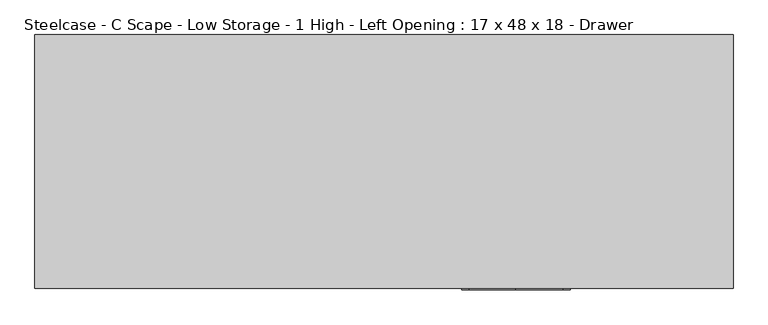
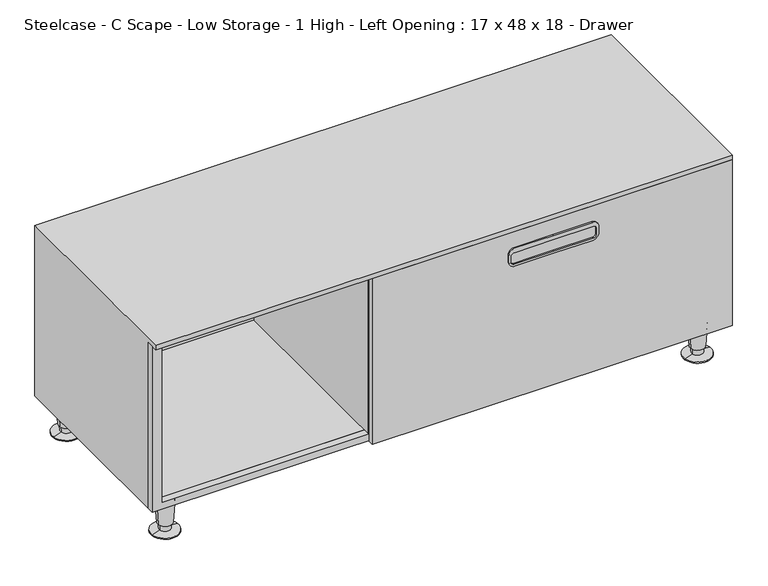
"""IFC4 building model written with IfcOpenShell, lengths in millimetres: furniture geometry, Steelcase - C Scape - Low Storage - 1 High - Left Opening : 17 x 48 x 18 - Drawer."""

import ifcopenshell
import ifcopenshell.guid

model = None  # the IFC model being written
_history = None  # IfcOwnerHistory: only IFC2X3 demands one
_inside = {}  # id of a spatial element -> (the spatial element, [elements in it])
_under = {}  # id of a project, library or spatial element -> (it, [spatial elements below it])
_declared = {}  # id of a project -> (the project, [libraries it declares])
_typed = {}  # id of a type object -> (the type object, [elements of that type])
_made_of = {}  # id of a material, layer set ... -> (it, [elements and type objects made of it])


def new_model(schema):
    """Start an empty IFC model of exactly this schema.

    Asked for "IFC4X3", IfcOpenShell would pick the latest addendum, in which some entities
    have other attributes; the version numbers below select the first issue.
    IFC2X3 requires an IfcOwnerHistory on every rooted entity: one is made here for all.
    """
    global model, _history
    if schema == "IFC4X3":
        model = ifcopenshell.file(schema_version=(4, 3, 0, 0))
    else:
        model = ifcopenshell.file(schema=schema)
    _inside.clear()
    _under.clear()
    _declared.clear()
    _typed.clear()
    _made_of.clear()
    _history = None
    if model.schema == "IFC2X3":
        org = make("IfcOrganization", Name="unknown")
        user = make(
            "IfcPersonAndOrganization",
            ThePerson=make("IfcPerson", FamilyName="unknown"),
            TheOrganization=org,
        )
        app = make(
            "IfcApplication",
            ApplicationDeveloper=org,
            Version="unknown",
            ApplicationFullName="unknown",
            ApplicationIdentifier="unknown",
        )
        _history = make(
            "IfcOwnerHistory",
            OwningUser=user,
            OwningApplication=app,
            ChangeAction="ADDED",
            CreationDate=0,
        )
    return model


def make(cls, **values):
    """One entity of the class cls with the attributes given. An attribute that is None is left unset."""
    return model.create_entity(
        cls, **{name: value for name, value in values.items() if value is not None}
    )


def rooted(cls, **values):
    """An entity with a GlobalId (a new one), such as an element, a storey or a relation."""
    return make(cls, GlobalId=ifcopenshell.guid.new(), OwnerHistory=_history, **values)


def si_unit(unit_type, name, prefix=None):
    """IfcSIUnit, for example si_unit("LENGTHUNIT", "METRE", prefix="MILLI")."""
    return make("IfcSIUnit", UnitType=unit_type, Prefix=prefix, Name=name)


def assignment(units):
    """IfcUnitAssignment: the units of a project."""
    return None if units is None else make("IfcUnitAssignment", Units=units)


def point(xyz):
    """IfcCartesianPoint."""
    return None if xyz is None else make("IfcCartesianPoint", Coordinates=xyz)


def direction(xyz):
    """IfcDirection."""
    return None if xyz is None else make("IfcDirection", DirectionRatios=xyz)


def frame(location, z_axis=None, x_axis=None):
    """IfcAxis2Placement3D, a coordinate frame: its origin and axes. An axis left out is left unset."""
    return make(
        "IfcAxis2Placement3D",
        Location=point(location),
        Axis=direction(z_axis),
        RefDirection=direction(x_axis),
    )


def frame_2d(location, x_axis=None):
    """IfcAxis2Placement2D, a coordinate frame in the plane: its origin and x axis."""
    return make(
        "IfcAxis2Placement2D", Location=point(location), RefDirection=direction(x_axis)
    )


def origin():
    """The frame at (0, 0, 0) with its axes left unset."""
    return frame((0.0, 0.0, 0.0))


def place(relative_to, where):
    """IfcLocalPlacement: puts the frame where relative to a parent placement (None: the world)."""
    return make(
        "IfcLocalPlacement", PlacementRelTo=relative_to, RelativePlacement=where
    )


def context(
    kind, dimensions, precision=None, world=None, true_north=None, identifier=None
):
    """IfcGeometricRepresentationContext, for example the 3D "Model" context."""
    return make(
        "IfcGeometricRepresentationContext",
        ContextIdentifier=identifier,
        ContextType=kind,
        CoordinateSpaceDimension=dimensions,
        Precision=precision,
        WorldCoordinateSystem=world,
        TrueNorth=true_north,
    )


def project(units=None, contexts=None):
    """IfcProject with its units and contexts."""
    return rooted(
        "IfcProject",
        Name="project",
        RepresentationContexts=contexts,
        UnitsInContext=assignment(units),
    )


def spatial(cls, under=None, at=None, **own):
    """A site, building, storey or space (cls), placed at a placement, below another one or the project."""
    s = rooted(cls, ObjectPlacement=at, **own)
    if under is not None:
        _under.setdefault(under.id(), (under, []))[1].append(s)
    return s


def polyline(points):
    """IfcPolyline through the points."""
    return make("IfcPolyline", Points=[point(p) for p in points])


def circle_curve(where, radius):
    """IfcCircle in the frame where."""
    return make("IfcCircle", Position=where, Radius=radius)


def trimmed(basis, trim1, trim2, sense, master):
    """IfcTrimmedCurve: the piece of a basis curve between two trims."""
    return make(
        "IfcTrimmedCurve",
        BasisCurve=basis,
        Trim1=trim1,
        Trim2=trim2,
        SenseAgreement=sense,
        MasterRepresentation=master,
    )


def segment(curve, same_sense, transition):
    """IfcCompositeCurveSegment."""
    return make(
        "IfcCompositeCurveSegment",
        Transition=transition,
        SameSense=same_sense,
        ParentCurve=curve,
    )


def composite_curve(segments, self_intersect=None):
    """IfcCompositeCurve: segments joined end to end."""
    return make("IfcCompositeCurve", Segments=segments, SelfIntersect=self_intersect)


def outline(outer, holes=None, kind="AREA"):
    """IfcArbitraryClosedProfileDef: a profile drawn as a closed curve; with holes, ...WithVoids."""
    if holes is None:
        return make("IfcArbitraryClosedProfileDef", ProfileType=kind, OuterCurve=outer)
    return make(
        "IfcArbitraryProfileDefWithVoids",
        ProfileType=kind,
        OuterCurve=outer,
        InnerCurves=holes,
    )


def extrude(swept, where, along, depth):
    """IfcExtrudedAreaSolid: the profile swept, set in the frame where, extruded along a direction by depth."""
    return make(
        "IfcExtrudedAreaSolid",
        SweptArea=swept,
        Position=where,
        ExtrudedDirection=direction(along),
        Depth=depth,
    )


def faces_of(points, faces, orient=None, outer=None):
    """IfcFace entities. A face is a list of loops; a loop is a list of indices into points, from 0.

    orient and outer hold one flag for each loop. By default every Orientation is true, the
    first loop of a face is its IfcFaceOuterBound and the others are IfcFaceBound.
    """
    made = []
    for i, loops in enumerate(faces):
        bounds = []
        for j, loop in enumerate(loops):
            is_outer = j == 0 if outer is None else outer[i][j]
            bounds.append(
                make(
                    "IfcFaceOuterBound" if is_outer else "IfcFaceBound",
                    Bound=make("IfcPolyLoop", Polygon=[points[k] for k in loop]),
                    Orientation=True if orient is None else orient[i][j],
                )
            )
        made.append(make("IfcFace", Bounds=bounds))
    return made


def faceted_brep(points, faces, orient=None, outer=None, voids=None):
    """IfcFacetedBrep: a solid bounded by flat faces; with voids (closed shells), ...WithVoids."""
    shared = [point(p) for p in points]
    hull = make("IfcClosedShell", CfsFaces=faces_of(shared, faces, orient, outer))
    if voids is None:
        return make("IfcFacetedBrep", Outer=hull)
    return make(
        "IfcFacetedBrepWithVoids",
        Outer=hull,
        Voids=[
            make(cls, CfsFaces=faces_of(shared, fs, o, b)) for cls, fs, o, b in voids
        ],
    )


def shape(context_of_items, identifier, shape_type, items):
    """IfcShapeRepresentation: the items that make up one representation, for example the "Body"."""
    return make(
        "IfcShapeRepresentation",
        ContextOfItems=context_of_items,
        RepresentationIdentifier=identifier,
        RepresentationType=shape_type,
        Items=items,
    )


def source(mapping_origin, context_of_items, identifier, shape_type, items):
    """IfcRepresentationMap: a shape defined once, which mapped items show again and again."""
    return make(
        "IfcRepresentationMap",
        MappingOrigin=mapping_origin,
        MappedRepresentation=shape(context_of_items, identifier, shape_type, items),
    )


def transform(
    local_origin,
    x_axis=None,
    y_axis=None,
    z_axis=None,
    scale=None,
    scale2=None,
    scale3=None,
    uniform=True,
):
    """IfcCartesianTransformationOperator3D, or its non-uniform kind. x_axis, y_axis, z_axis: its Axis1, 2, 3."""
    if uniform:
        return make(
            "IfcCartesianTransformationOperator3D",
            Axis1=direction(x_axis),
            Axis2=direction(y_axis),
            LocalOrigin=point(local_origin),
            Scale=scale,
            Axis3=direction(z_axis),
        )
    return make(
        "IfcCartesianTransformationOperator3DnonUniform",
        Axis1=direction(x_axis),
        Axis2=direction(y_axis),
        LocalOrigin=point(local_origin),
        Scale=scale,
        Axis3=direction(z_axis),
        Scale2=scale2,
        Scale3=scale3,
    )


def mapped(mapping_source, mapping_target):
    """IfcMappedItem: shows the shape of a source again, moved by a transform."""
    return make(
        "IfcMappedItem", MappingSource=mapping_source, MappingTarget=mapping_target
    )


def made_of(thing, what):
    """Note that an element or type object is made of a material, layer set ...; save() writes the relation."""
    if what is not None:
        _made_of.setdefault(what.id(), (what, []))[1].append(thing)
    return thing


def element(
    cls,
    number,
    at=None,
    inside=None,
    cuts=None,
    type_object=None,
    material=None,
    context=None,
    identifier="Body",
    shape_type=None,
    held_by="IfcProductDefinitionShape",
    body=None,
    shapes=None,
    **own,
):
    """One element of the class cls, such as IfcWall. Its Tag is "e" and its number.

    at: its placement. inside: the storey or other place that contains it. cuts: it is an
    opening in that element (IfcRelVoidsElement). A single representation is given by context,
    identifier, shape_type and body (its items); several are given by shapes. held_by: the class
    of the entity that holds the representations. save() writes the other relations.
    """
    e = rooted(cls, Tag="e%d" % number, ObjectPlacement=at, **own)
    if body is not None:
        shapes = [shape(context, identifier, shape_type, body)]
    if shapes is not None:
        e.Representation = make(held_by, Representations=shapes)
    if inside is not None:
        _inside.setdefault(inside.id(), (inside, []))[1].append(e)
    if cuts is not None:
        rooted(
            "IfcRelVoidsElement", RelatingBuildingElement=cuts, RelatedOpeningElement=e
        )
    if type_object is not None:
        _typed.setdefault(type_object.id(), (type_object, []))[1].append(e)
    return made_of(e, material)


def aggregate(whole, parts):
    """IfcRelAggregates: a whole, such as a stair, and the parts it consists of."""
    return rooted("IfcRelAggregates", RelatingObject=whole, RelatedObjects=parts)


def save(model, path):
    """Write the relations noted so far, then the file.

    IfcRelAggregates (storeys below a building ...), IfcRelContainedInSpatialStructure (elements
    in a storey), IfcRelDefinesByType, IfcRelAssociatesMaterial and IfcRelDeclares: one each for
    every whole, place, type object, material and project.
    """
    for whole, parts in _under.values():
        aggregate(whole, parts)
    for where, things in _inside.values():
        rooted(
            "IfcRelContainedInSpatialStructure",
            RelatedElements=things,
            RelatingStructure=where,
        )
    for kind, things in _typed.values():
        rooted("IfcRelDefinesByType", RelatedObjects=things, RelatingType=kind)
    for what, things in _made_of.values():
        rooted("IfcRelAssociatesMaterial", RelatedObjects=things, RelatingMaterial=what)
    for by, libraries in _declared.values():
        rooted("IfcRelDeclares", RelatingContext=by, RelatedDefinitions=libraries)
    model.write(path)


def plane_surface(at):
    """IfcPlane: the flat surface through the origin of the frame at, square to its z axis."""
    return make("IfcPlane", Position=at)


def cylinder_surface(at, radius):
    """IfcCylindricalSurface: all points at the distance radius from the z axis of the frame at."""
    return make("IfcCylindricalSurface", Position=at, Radius=radius)


def revolved_surface(curve, axis_point, axis_direction):
    """IfcSurfaceOfRevolution: the curve turned about the line through axis_point along axis_direction."""
    return make(
        "IfcSurfaceOfRevolution",
        SweptCurve=make("IfcArbitraryOpenProfileDef", ProfileType="CURVE", Curve=curve),
        AxisPosition=make("IfcAxis1Placement", Location=point(axis_point), Axis=direction(axis_direction)),
    )


def advanced_brep(points, edges, surfaces, faces):
    """IfcAdvancedBrep: a solid bounded by faces that lie on surfaces and meet in shared edges.

    An edge is (start, end): straight between two places in points (the first is 0);
    or (start, end, curve); or (start, end, curve, False) where it runs against its curve.
    A face is (place in surfaces, loops), or (place, loops, False) where it looks against
    its surface's normal. A loop lists edges by number (the first is 1), with a minus sign
    where the edge is run from its end to its start. The first loop is the outer one.
    """
    corners = [point(p) for p in points]
    vertices = [make("IfcVertexPoint", VertexGeometry=c) for c in corners]
    made = []
    for start, end, *more in edges:
        made.append(
            make(
                "IfcEdgeCurve",
                EdgeStart=vertices[start],
                EdgeEnd=vertices[end],
                EdgeGeometry=more[0] if more else make("IfcPolyline", Points=[corners[start], corners[end]]),
                SameSense=more[1] if len(more) > 1 else True,
            )
        )
    hull = []
    for where, loops, *sense in faces:
        bounds = []
        for j, loop in enumerate(loops):
            ring = [make("IfcOrientedEdge", EdgeElement=made[abs(k) - 1], Orientation=k > 0) for k in loop]
            bounds.append(
                make(
                    "IfcFaceOuterBound" if j == 0 else "IfcFaceBound",
                    Bound=make("IfcEdgeLoop", EdgeList=ring),
                    Orientation=True,
                )
            )
        hull.append(make("IfcAdvancedFace", Bounds=bounds, FaceSurface=surfaces[where], SameSense=sense[0] if sense else True))
    return make("IfcAdvancedBrep", Outer=make("IfcClosedShell", CfsFaces=hull))


def steelcase_c_scape_low_storage_1_high_left_opening_17_x_48_x_c95f1396(model_context):
    return source(origin(), model_context, "Body", "SolidModel", [
        extrude(outline(polyline([(447.0400097, 1217.93), (447.0400097, -0.0013237), (76.2, -0.0013237), (76.2, 1217.93), (447.0400097, 1217.93)]), holes=[polyline([(91.44, 21.3369088), (436.2449927, 21.3369088), (436.2449927, 1196.5917676), (91.44, 1196.5917676), (91.44, 21.3369088)])]), frame((0.0, -428.8790543, 0.0), z_axis=(0.0, 1.0, 0.0), x_axis=(0.0, 0.0, 1.0)), (0.0, 0.0, 1.0), 14.986226),
        extrude(outline(composite_curve([segment(trimmed(circle_curve(frame_2d((399.2562379, 756.9195892)), 12.7), [point((411.9562379, 756.9195892))], [point((399.2562379, 744.2195892))], False, "CARTESIAN"), True, "CONTINUOUS"), segment(polyline([(399.2562379, 744.2195892), (384.651267, 744.2195892)]), True, "CONTINUOUS"), segment(trimmed(circle_curve(frame_2d((384.651267, 756.9195892)), 12.7), [point((384.651267, 744.2195892))], [point((371.951267, 756.9195892))], False, "CARTESIAN"), True, "CONTINUOUS"), segment(polyline([(371.951267, 756.9195892), (371.951267, 839.152345), (371.951267, 921.3851007)]), True, "CONTINUOUS"), segment(trimmed(circle_curve(frame_2d((384.651267, 921.3851007)), 12.7), [point((371.951267, 921.3851007))], [point((384.651267, 934.0851007))], False, "CARTESIAN"), True, "CONTINUOUS"), segment(polyline([(384.651267, 934.0851007), (399.2562379, 934.0851007)]), True, "CONTINUOUS"), segment(trimmed(circle_curve(frame_2d((399.2562379, 921.3851007)), 12.7), [point((399.2562379, 934.0851007))], [point((411.9562379, 921.3851007))], False, "CARTESIAN"), True, "CONTINUOUS"), segment(polyline([(411.9562379, 921.3851007), (411.9562379, 839.152345), (411.9562379, 756.9195892)]), True, "CONTINUOUS")], self_intersect=False), holes=[composite_curve([segment(trimmed(circle_curve(frame_2d((395.8272563, 755.3972015)), 6.35), [point((395.8272563, 749.0472015))], [point((402.1772563, 755.3972015))], True, "CARTESIAN"), True, "CONTINUOUS"), segment(polyline([(402.1772563, 755.3972015), (402.1772563, 839.152345), (402.1772563, 922.9074884)]), True, "CONTINUOUS"), segment(trimmed(circle_curve(frame_2d((395.8272563, 922.9074884)), 6.35), [point((402.1772563, 922.9074884))], [point((395.8272563, 929.2574884))], True, "CARTESIAN"), True, "CONTINUOUS"), segment(polyline([(395.8272563, 929.2574884), (383.1272442, 929.2574884)]), True, "CONTINUOUS"), segment(trimmed(circle_curve(frame_2d((383.1272442, 922.9074884)), 6.35), [point((383.1272442, 929.2574884))], [point((376.7772442, 922.9074884))], True, "CARTESIAN"), True, "CONTINUOUS"), segment(polyline([(376.7772442, 922.9074884), (376.7772442, 839.152345), (376.7772442, 755.3972015)]), True, "CONTINUOUS"), segment(trimmed(circle_curve(frame_2d((383.1272442, 755.3972015)), 6.35), [point((376.7772442, 755.3972015))], [point((383.1272442, 749.0472015))], True, "CARTESIAN"), True, "CONTINUOUS"), segment(polyline([(383.1272442, 749.0472015), (395.8272563, 749.0472015)]), True, "CONTINUOUS")], self_intersect=False)]), frame((0.0, -445.643, 0.0), z_axis=(0.0, 1.0, 0.0), x_axis=(0.0, 0.0, 1.0)), (0.0, 0.0, 1.0), 3.0480678),
        advanced_brep(
        [(1190.0494568, -31.5218435, 76.2), (1152.3877179, -37.2840847, 76.2), (1171.2185874, -34.4029641, 76.2), (1186.0991088, -32.1262463, 19.05), (1156.3380659, -36.6796819, 19.05), (1183.6695219, -32.4979728, 19.05), (1158.7676529, -36.3079555, 19.05), (1182.9807524, -32.6033544, 5.7545598), (1159.4564224, -36.2025738, 5.7545598), (1200.3296359, -29.9489775, 2.5119506), (1142.1075389, -38.8569507, 2.5119506), (1200.3296359, -29.9489775, 0.0), (1142.1075389, -38.8569507, 0.0), (1171.2185874, -34.4029641, 0.0)],
        [
            (0, 1, circle_curve(frame((1171.2185874, -34.4029641, 76.2), z_axis=(0.0, 0.0, 1.0), x_axis=(0.0, -1.0, 0.0)), 19.05)),
            (1, 2),
            (2, 0),
            (1, 0, circle_curve(frame((1171.2185874, -34.4029641, 76.2), z_axis=(0.0, 0.0, 1.0), x_axis=(0.0, -1.0, 0.0)), 19.05)),
            (3, 4, circle_curve(frame((1171.2185874, -34.4029641, 19.05), z_axis=(0.0, 0.0, 1.0), x_axis=(0.0, -1.0, 0.0)), 15.0536827)),
            (4, 1),
            (0, 3),
            (4, 3, circle_curve(frame((1171.2185874, -34.4029641, 19.05), z_axis=(0.0, 0.0, 1.0), x_axis=(0.0, -1.0, 0.0)), 15.0536827)),
            (5, 6, circle_curve(frame((1171.2185874, -34.4029641, 19.05), z_axis=(0.0, 0.0, 1.0), x_axis=(0.0, -1.0, 0.0)), 12.5958232)),
            (6, 4),
            (3, 5),
            (6, 5, circle_curve(frame((1171.2185874, -34.4029641, 19.05), z_axis=(0.0, 0.0, 1.0), x_axis=(0.0, -1.0, 0.0)), 12.5958232)),
            (7, 8, circle_curve(frame((1171.2185874, -34.4029641, 5.7545598), z_axis=(0.0, 0.0, 1.0), x_axis=(0.0, -1.0, 0.0)), 11.8990387)),
            (8, 6),
            (5, 7),
            (8, 7, circle_curve(frame((1171.2185874, -34.4029641, 5.7545598), z_axis=(0.0, 0.0, 1.0), x_axis=(0.0, -1.0, 0.0)), 11.8990387)),
            (9, 10, circle_curve(frame((1171.2185874, -34.4029641, 2.5119506), z_axis=(0.0, 0.0, 1.0), x_axis=(0.0, -1.0, 0.0)), 29.4498071)),
            (10, 8),
            (7, 9),
            (10, 9, circle_curve(frame((1171.2185874, -34.4029641, 2.5119506), z_axis=(0.0, 0.0, 1.0), x_axis=(0.0, -1.0, 0.0)), 29.4498071)),
            (11, 12, circle_curve(frame((1171.2185874, -34.4029641, 0.0), z_axis=(0.0, 0.0, 1.0), x_axis=(0.0, -1.0, 0.0)), 29.4498071)),
            (12, 10),
            (9, 11),
            (12, 11, circle_curve(frame((1171.2185874, -34.4029641, 0.0), z_axis=(0.0, 0.0, 1.0), x_axis=(0.0, -1.0, 0.0)), 29.4498071)),
            (13, 12),
            (11, 13),
        ],
        [
            plane_surface(frame((1171.2185874, -34.4029641, 76.2), z_axis=(0.0, 0.0, 1.0), x_axis=(0.0, -1.0, 0.0))),
            revolved_surface(polyline([(1171.2185874, -53.4529641, 76.2), (1171.2185874, -49.4566468, 19.05)]), (1171.2185874, -34.4029641, 25.4), (0.0, 0.0, -1.0)),
            plane_surface(frame((1171.2185874, -34.4029641, 19.05), z_axis=(0.0, 0.0, -1.0), x_axis=(0.0, -1.0, 0.0))),
            revolved_surface(polyline([(1171.2185874, -46.9987873, 19.05), (1171.2185874, -46.3020028, 5.7545598)]), (1171.2185874, -34.4029641, 25.4), (0.0, 0.0, -1.0)),
            revolved_surface(polyline([(1171.2185874, -46.3020028, 5.7545598), (1171.2185874, -63.8527712, 2.5119506)]), (1171.2185874, -34.4029641, 25.4), (0.0, 0.0, -1.0)),
            cylinder_surface(frame((1171.2185874, -34.4029641, 25.4), z_axis=(0.0, 0.0, -1.0), x_axis=(0.0, -1.0, 0.0)), 29.4498071),
            plane_surface(frame((1171.2185874, -34.4029641, 0.0), z_axis=(0.0, 0.0, -1.0), x_axis=(0.0, -1.0, 0.0))),
        ],
        [
            (0, [[1, 2, 3]]),
            (0, [[4, -3, -2]]),
            (1, [[5, 6, -1, 7]]),
            (1, [[8, -7, -4, -6]]),
            (2, [[9, 10, -5, 11]]),
            (2, [[12, -11, -8, -10]]),
            (3, [[13, 14, -9, 15]]),
            (3, [[16, -15, -12, -14]]),
            (4, [[17, 18, -13, 19]]),
            (4, [[20, -19, -16, -18]]),
            (5, [[21, 22, -17, 23]]),
            (5, [[24, -23, -20, -22]]),
            (6, [[25, -21, 26]]),
            (6, [[-26, -24, -25]]),
        ],
    ),
        advanced_brep(
        [(1190.0494568, -392.9793305, 76.2), (1152.3877179, -398.7415716, 76.2), (1171.2185874, -395.8604511, 76.2), (1186.0991088, -393.5837332, 19.05), (1156.3380659, -398.1371689, 19.05), (1183.6695219, -393.9554597, 19.05), (1158.7676529, -397.7654424, 19.05), (1182.9807524, -394.0608413, 5.7545598), (1159.4564224, -397.6600608, 5.7545598), (1200.3296359, -391.4064644, 2.5119506), (1142.1075389, -400.3144377, 2.5119506), (1200.3296359, -391.4064644, 0.0), (1142.1075389, -400.3144377, 0.0), (1171.2185874, -395.8604511, 0.0)],
        [
            (0, 1, circle_curve(frame((1171.2185874, -395.8604511, 76.2), z_axis=(0.0, 0.0, 1.0), x_axis=(0.0, -1.0, 0.0)), 19.05)),
            (1, 2),
            (2, 0),
            (1, 0, circle_curve(frame((1171.2185874, -395.8604511, 76.2), z_axis=(0.0, 0.0, 1.0), x_axis=(0.0, -1.0, 0.0)), 19.05)),
            (3, 4, circle_curve(frame((1171.2185874, -395.8604511, 19.05), z_axis=(0.0, 0.0, 1.0), x_axis=(0.0, -1.0, 0.0)), 15.0536827)),
            (4, 1),
            (0, 3),
            (4, 3, circle_curve(frame((1171.2185874, -395.8604511, 19.05), z_axis=(0.0, 0.0, 1.0), x_axis=(0.0, -1.0, 0.0)), 15.0536827)),
            (5, 6, circle_curve(frame((1171.2185874, -395.8604511, 19.05), z_axis=(0.0, 0.0, 1.0), x_axis=(0.0, -1.0, 0.0)), 12.5958232)),
            (6, 4),
            (3, 5),
            (6, 5, circle_curve(frame((1171.2185874, -395.8604511, 19.05), z_axis=(0.0, 0.0, 1.0), x_axis=(0.0, -1.0, 0.0)), 12.5958232)),
            (7, 8, circle_curve(frame((1171.2185874, -395.8604511, 5.7545598), z_axis=(0.0, 0.0, 1.0), x_axis=(0.0, -1.0, 0.0)), 11.8990387)),
            (8, 6),
            (5, 7),
            (8, 7, circle_curve(frame((1171.2185874, -395.8604511, 5.7545598), z_axis=(0.0, 0.0, 1.0), x_axis=(0.0, -1.0, 0.0)), 11.8990387)),
            (9, 10, circle_curve(frame((1171.2185874, -395.8604511, 2.5119506), z_axis=(0.0, 0.0, 1.0), x_axis=(0.0, -1.0, 0.0)), 29.4498071)),
            (10, 8),
            (7, 9),
            (10, 9, circle_curve(frame((1171.2185874, -395.8604511, 2.5119506), z_axis=(0.0, 0.0, 1.0), x_axis=(0.0, -1.0, 0.0)), 29.4498071)),
            (11, 12, circle_curve(frame((1171.2185874, -395.8604511, 0.0), z_axis=(0.0, 0.0, 1.0), x_axis=(0.0, -1.0, 0.0)), 29.4498071)),
            (12, 10),
            (9, 11),
            (12, 11, circle_curve(frame((1171.2185874, -395.8604511, 0.0), z_axis=(0.0, 0.0, 1.0), x_axis=(0.0, -1.0, 0.0)), 29.4498071)),
            (13, 12),
            (11, 13),
        ],
        [
            plane_surface(frame((1171.2185874, -395.8604511, 76.2), z_axis=(0.0, 0.0, 1.0), x_axis=(0.0, -1.0, 0.0))),
            revolved_surface(polyline([(1171.2185874, -414.9104511, 76.2), (1171.2185874, -410.9141338, 19.05)]), (1171.2185874, -395.8604511, 25.4), (0.0, 0.0, -1.0)),
            plane_surface(frame((1171.2185874, -395.8604511, 19.05), z_axis=(0.0, 0.0, -1.0), x_axis=(0.0, -1.0, 0.0))),
            revolved_surface(polyline([(1171.2185874, -408.4562742, 19.05), (1171.2185874, -407.7594897, 5.7545598)]), (1171.2185874, -395.8604511, 25.4), (0.0, 0.0, -1.0)),
            revolved_surface(polyline([(1171.2185874, -407.7594897, 5.7545598), (1171.2185874, -425.3102582, 2.5119506)]), (1171.2185874, -395.8604511, 25.4), (0.0, 0.0, -1.0)),
            cylinder_surface(frame((1171.2185874, -395.8604511, 25.4), z_axis=(0.0, 0.0, -1.0), x_axis=(0.0, -1.0, 0.0)), 29.4498071),
            plane_surface(frame((1171.2185874, -395.8604511, 0.0), z_axis=(0.0, 0.0, -1.0), x_axis=(0.0, -1.0, 0.0))),
        ],
        [
            (0, [[1, 2, 3]]),
            (0, [[4, -3, -2]]),
            (1, [[5, 6, -1, 7]]),
            (1, [[8, -7, -4, -6]]),
            (2, [[9, 10, -5, 11]]),
            (2, [[12, -11, -8, -10]]),
            (3, [[13, 14, -9, 15]]),
            (3, [[16, -15, -12, -14]]),
            (4, [[17, 18, -13, 19]]),
            (4, [[20, -19, -16, -18]]),
            (5, [[21, 22, -17, 23]]),
            (5, [[24, -23, -20, -22]]),
            (6, [[25, -21, 26]]),
            (6, [[-26, -24, -25]]),
        ],
    ),
        advanced_brep(
        [(64.9305458, -392.9793305, 76.2), (27.2688069, -398.7415716, 76.2), (46.0996763, -395.8604511, 76.2), (60.9801978, -393.5837332, 19.05), (31.2191549, -398.1371689, 19.05), (58.5506108, -393.9554597, 19.05), (33.6487419, -397.7654424, 19.05), (57.8618414, -394.0608413, 5.7545598), (34.3375113, -397.6600608, 5.7545598), (75.2107248, -391.4064644, 2.5119506), (16.9886279, -400.3144377, 2.5119506), (75.2107248, -391.4064644, 0.0), (16.9886279, -400.3144377, 0.0), (46.0996763, -395.8604511, 0.0)],
        [
            (0, 1, circle_curve(frame((46.0996763, -395.8604511, 76.2), z_axis=(0.0, 0.0, 1.0), x_axis=(0.0, -1.0, 0.0)), 19.05)),
            (1, 2),
            (2, 0),
            (1, 0, circle_curve(frame((46.0996763, -395.8604511, 76.2), z_axis=(0.0, 0.0, 1.0), x_axis=(0.0, -1.0, 0.0)), 19.05)),
            (3, 4, circle_curve(frame((46.0996763, -395.8604511, 19.05), z_axis=(0.0, 0.0, 1.0), x_axis=(0.0, -1.0, 0.0)), 15.0536827)),
            (4, 1),
            (0, 3),
            (4, 3, circle_curve(frame((46.0996763, -395.8604511, 19.05), z_axis=(0.0, 0.0, 1.0), x_axis=(0.0, -1.0, 0.0)), 15.0536827)),
            (5, 6, circle_curve(frame((46.0996763, -395.8604511, 19.05), z_axis=(0.0, 0.0, 1.0), x_axis=(0.0, -1.0, 0.0)), 12.5958232)),
            (6, 4),
            (3, 5),
            (6, 5, circle_curve(frame((46.0996763, -395.8604511, 19.05), z_axis=(0.0, 0.0, 1.0), x_axis=(0.0, -1.0, 0.0)), 12.5958232)),
            (7, 8, circle_curve(frame((46.0996763, -395.8604511, 5.7545598), z_axis=(0.0, 0.0, 1.0), x_axis=(0.0, -1.0, 0.0)), 11.8990387)),
            (8, 6),
            (5, 7),
            (8, 7, circle_curve(frame((46.0996763, -395.8604511, 5.7545598), z_axis=(0.0, 0.0, 1.0), x_axis=(0.0, -1.0, 0.0)), 11.8990387)),
            (9, 10, circle_curve(frame((46.0996763, -395.8604511, 2.5119506), z_axis=(0.0, 0.0, 1.0), x_axis=(0.0, -1.0, 0.0)), 29.4498071)),
            (10, 8),
            (7, 9),
            (10, 9, circle_curve(frame((46.0996763, -395.8604511, 2.5119506), z_axis=(0.0, 0.0, 1.0), x_axis=(0.0, -1.0, 0.0)), 29.4498071)),
            (11, 12, circle_curve(frame((46.0996763, -395.8604511, 0.0), z_axis=(0.0, 0.0, 1.0), x_axis=(0.0, -1.0, 0.0)), 29.4498071)),
            (12, 10),
            (9, 11),
            (12, 11, circle_curve(frame((46.0996763, -395.8604511, 0.0), z_axis=(0.0, 0.0, 1.0), x_axis=(0.0, -1.0, 0.0)), 29.4498071)),
            (13, 12),
            (11, 13),
        ],
        [
            plane_surface(frame((46.0996763, -395.8604511, 76.2), z_axis=(0.0, 0.0, 1.0), x_axis=(0.0, -1.0, 0.0))),
            revolved_surface(polyline([(46.0996763, -414.9104511, 76.2), (46.0996763, -410.9141338, 19.05)]), (46.0996763, -395.8604511, 25.4), (0.0, 0.0, -1.0)),
            plane_surface(frame((46.0996763, -395.8604511, 19.05), z_axis=(0.0, 0.0, -1.0), x_axis=(0.0, -1.0, 0.0))),
            revolved_surface(polyline([(46.0996763, -408.4562742, 19.05), (46.0996763, -407.7594897, 5.7545598)]), (46.0996763, -395.8604511, 25.4), (0.0, 0.0, -1.0)),
            revolved_surface(polyline([(46.0996763, -407.7594897, 5.7545598), (46.0996763, -425.3102582, 2.5119506)]), (46.0996763, -395.8604511, 25.4), (0.0, 0.0, -1.0)),
            cylinder_surface(frame((46.0996763, -395.8604511, 25.4), z_axis=(0.0, 0.0, -1.0), x_axis=(0.0, -1.0, 0.0)), 29.4498071),
            plane_surface(frame((46.0996763, -395.8604511, 0.0), z_axis=(0.0, 0.0, -1.0), x_axis=(0.0, -1.0, 0.0))),
        ],
        [
            (0, [[1, 2, 3]]),
            (0, [[4, -3, -2]]),
            (1, [[5, 6, -1, 7]]),
            (1, [[8, -7, -4, -6]]),
            (2, [[9, 10, -5, 11]]),
            (2, [[12, -11, -8, -10]]),
            (3, [[13, 14, -9, 15]]),
            (3, [[16, -15, -12, -14]]),
            (4, [[17, 18, -13, 19]]),
            (4, [[20, -19, -16, -18]]),
            (5, [[21, 22, -17, 23]]),
            (5, [[24, -23, -20, -22]]),
            (6, [[25, -21, 26]]),
            (6, [[-26, -24, -25]]),
        ],
    ),
        advanced_brep(
        [(64.9305458, -31.5218435, 76.2), (27.2688069, -37.2840847, 76.2), (46.0996763, -34.4029641, 76.2), (60.9801978, -32.1262463, 19.05), (31.2191549, -36.6796819, 19.05), (58.5506108, -32.4979728, 19.05), (33.6487419, -36.3079555, 19.05), (57.8618414, -32.6033544, 5.7545598), (34.3375113, -36.2025738, 5.7545598), (75.2107248, -29.9489775, 2.5119506), (16.9886279, -38.8569507, 2.5119506), (75.2107248, -29.9489775, 0.0), (16.9886279, -38.8569507, 0.0), (46.0996763, -34.4029641, 0.0)],
        [
            (0, 1, circle_curve(frame((46.0996763, -34.4029641, 76.2), z_axis=(0.0, 0.0, 1.0), x_axis=(0.0, -1.0, 0.0)), 19.05)),
            (1, 2),
            (2, 0),
            (1, 0, circle_curve(frame((46.0996763, -34.4029641, 76.2), z_axis=(0.0, 0.0, 1.0), x_axis=(0.0, -1.0, 0.0)), 19.05)),
            (3, 4, circle_curve(frame((46.0996763, -34.4029641, 19.05), z_axis=(0.0, 0.0, 1.0), x_axis=(0.0, -1.0, 0.0)), 15.0536827)),
            (4, 1),
            (0, 3),
            (4, 3, circle_curve(frame((46.0996763, -34.4029641, 19.05), z_axis=(0.0, 0.0, 1.0), x_axis=(0.0, -1.0, 0.0)), 15.0536827)),
            (5, 6, circle_curve(frame((46.0996763, -34.4029641, 19.05), z_axis=(0.0, 0.0, 1.0), x_axis=(0.0, -1.0, 0.0)), 12.5958232)),
            (6, 4),
            (3, 5),
            (6, 5, circle_curve(frame((46.0996763, -34.4029641, 19.05), z_axis=(0.0, 0.0, 1.0), x_axis=(0.0, -1.0, 0.0)), 12.5958232)),
            (7, 8, circle_curve(frame((46.0996763, -34.4029641, 5.7545598), z_axis=(0.0, 0.0, 1.0), x_axis=(0.0, -1.0, 0.0)), 11.8990387)),
            (8, 6),
            (5, 7),
            (8, 7, circle_curve(frame((46.0996763, -34.4029641, 5.7545598), z_axis=(0.0, 0.0, 1.0), x_axis=(0.0, -1.0, 0.0)), 11.8990387)),
            (9, 10, circle_curve(frame((46.0996763, -34.4029641, 2.5119506), z_axis=(0.0, 0.0, 1.0), x_axis=(0.0, -1.0, 0.0)), 29.4498071)),
            (10, 8),
            (7, 9),
            (10, 9, circle_curve(frame((46.0996763, -34.4029641, 2.5119506), z_axis=(0.0, 0.0, 1.0), x_axis=(0.0, -1.0, 0.0)), 29.4498071)),
            (11, 12, circle_curve(frame((46.0996763, -34.4029641, 0.0), z_axis=(0.0, 0.0, 1.0), x_axis=(0.0, -1.0, 0.0)), 29.4498071)),
            (12, 10),
            (9, 11),
            (12, 11, circle_curve(frame((46.0996763, -34.4029641, 0.0), z_axis=(0.0, 0.0, 1.0), x_axis=(0.0, -1.0, 0.0)), 29.4498071)),
            (13, 12),
            (11, 13),
        ],
        [
            plane_surface(frame((46.0996763, -34.4029641, 76.2), z_axis=(0.0, 0.0, 1.0), x_axis=(0.0, -1.0, 0.0))),
            revolved_surface(polyline([(46.0996763, -53.4529641, 76.2), (46.0996763, -49.4566468, 19.05)]), (46.0996763, -34.4029641, 25.4), (0.0, 0.0, -1.0)),
            plane_surface(frame((46.0996763, -34.4029641, 19.05), z_axis=(0.0, 0.0, -1.0), x_axis=(0.0, -1.0, 0.0))),
            revolved_surface(polyline([(46.0996763, -46.9987873, 19.05), (46.0996763, -46.3020028, 5.7545598)]), (46.0996763, -34.4029641, 25.4), (0.0, 0.0, -1.0)),
            revolved_surface(polyline([(46.0996763, -46.3020028, 5.7545598), (46.0996763, -63.8527712, 2.5119506)]), (46.0996763, -34.4029641, 25.4), (0.0, 0.0, -1.0)),
            cylinder_surface(frame((46.0996763, -34.4029641, 25.4), z_axis=(0.0, 0.0, -1.0), x_axis=(0.0, -1.0, 0.0)), 29.4498071),
            plane_surface(frame((46.0996763, -34.4029641, 0.0), z_axis=(0.0, 0.0, -1.0), x_axis=(0.0, -1.0, 0.0))),
        ],
        [
            (0, [[1, 2, 3]]),
            (0, [[4, -3, -2]]),
            (1, [[5, 6, -1, 7]]),
            (1, [[8, -7, -4, -6]]),
            (2, [[9, 10, -5, 11]]),
            (2, [[12, -11, -8, -10]]),
            (3, [[13, 14, -9, 15]]),
            (3, [[16, -15, -12, -14]]),
            (4, [[17, 18, -13, 19]]),
            (4, [[20, -19, -16, -18]]),
            (5, [[21, 22, -17, 23]]),
            (5, [[24, -23, -20, -22]]),
            (6, [[25, -21, 26]]),
            (6, [[-26, -24, -25]]),
        ],
    ),
        faceted_brep([(-0.0013237, 0.0, 76.2), (-0.0013237, -413.8928283, 76.2), (-0.0013237, -413.8928283, 447.0400097), (-0.0013237, -442.5949322, 447.0400097), (-0.0013237, -442.5949322, 457.2), (-0.0013237, 0.0, 457.2), (479.4277905, -413.8928283, 76.2), (1217.93, -413.8928283, 76.2), (1217.93, -413.8928283, 447.0400097), (1196.5917676, -413.8928283, 447.0400097), (1196.5917676, -413.8928283, 91.44), (479.4277905, -413.8928283, 91.44), (457.1996899, -413.8928283, 76.2), (457.1996899, -413.8928283, 91.44), (21.3369088, -413.8928283, 91.44), (21.3369088, -413.8928283, 447.0400097), (21.3369088, -9.525, 447.0400097), (21.3369088, -9.525, 91.44), (457.1996899, -9.525, 447.0400097), (457.1996899, -9.525, 91.44), (457.1996899, -428.8790543, 76.2), (457.1996899, -428.8790543, 447.0400097), (479.4277905, -428.8790543, 447.0400097), (479.4277905, -428.8790543, 76.2), (479.4277905, -9.525, 91.44), (479.4277905, -9.525, 447.0400097), (1196.5917676, -9.525, 447.0400097), (1196.5917676, -9.525, 91.44), (1217.93, 0.0, 76.2), (1217.93, 0.0, 457.2), (1217.93, -442.5949322, 457.2), (1217.93, -442.5949322, 447.0400097)], [[[0, 1, 2, 3, 4, 5]], [[6, 7, 8, 9, 10, 11]], [[1, 12, 13, 14, 15, 2]], [[16, 15, 14, 17]], [[18, 16, 17, 19]], [[20, 21, 18, 19, 13, 12]], [[22, 23, 6, 11, 24, 25]], [[26, 25, 24, 27]], [[9, 26, 27, 10]], [[7, 28, 29, 30, 31, 8]], [[28, 0, 5, 29]], [[5, 4, 30, 29]], [[31, 3, 2, 15, 16, 18, 21, 22, 25, 26, 9, 8]], [[14, 13, 19, 17]], [[11, 10, 27, 24]], [[0, 28, 7, 6, 23, 20, 12, 1]], [[20, 23, 22, 21]], [[30, 4, 3, 31]]]),
        extrude(outline(polyline([(457.1996899, -432.054), (1217.93, -432.054), (1217.93, -442.5949322), (457.1996899, -442.5949322), (457.1996899, -432.054)])), frame((0.0, 0.0, 76.2), z_axis=(0.0, 0.0, 1.0), x_axis=(1.0, 0.0, 0.0)), (0.0, 0.0, 1.0), 370.8400097),
    ])


if __name__ == "__main__":
    model = new_model("IFC4")
    model_context = context("Model", 3, world=origin())
    ifc_project = project(units=[si_unit("LENGTHUNIT", "METRE", prefix="MILLI")], contexts=[model_context])
    site = spatial("IfcSite", under=ifc_project)
    building = spatial("IfcBuilding", under=site)
    placement = place(None, origin())
    steelcase_c_scape_low_storage_1_high_left_opening_17_x_48_x_shape = steelcase_c_scape_low_storage_1_high_left_opening_17_x_48_x_c95f1396(model_context)
    element("IfcFurniture", 1, ObjectType="Steelcase - C Scape - Low Storage - 1 High - Left Opening : 17 x 48 x 18 - Drawer", at=placement, inside=building, context=model_context, shape_type="MappedRepresentation", body=[
        mapped(steelcase_c_scape_low_storage_1_high_left_opening_17_x_48_x_shape, transform((0.0, 0.0, 0.0), x_axis=(1.0, 0.0, 0.0), y_axis=(0.0, 1.0, 0.0), z_axis=(0.0, 0.0, 1.0))),
    ])
    save(model, "model.ifc")
